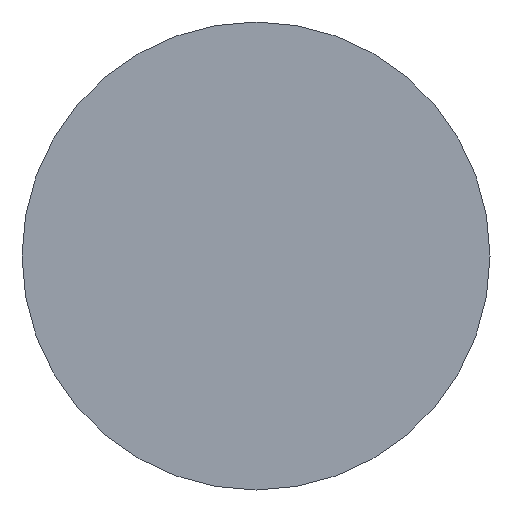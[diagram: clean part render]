
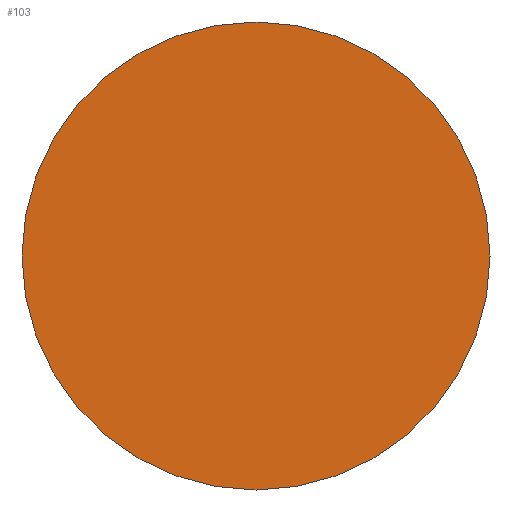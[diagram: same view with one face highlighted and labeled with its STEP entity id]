
A CAD part, front view. The second image highlights one B-rep face of the part: STEP entity #103.
In plain terms, the highlighted planar face has unit normal (0, -1, 0).
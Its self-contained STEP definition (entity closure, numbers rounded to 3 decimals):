
#73 = VERTEX_POINT( '', #172 );
#77 = EDGE_CURVE( '', #79, #73, #176, .T. );
#79 = VERTEX_POINT( '', #178 );
#103 = ADVANCED_FACE( '', ( #207 ), #208, .T. );
#117 = EDGE_CURVE( '', #73, #79, #223, .T. );
#172 = CARTESIAN_POINT( '', ( 0., -23., 12.5 ) );
#176 = CIRCLE( '', #280, 12.5 );
#178 = CARTESIAN_POINT( '', ( 0., -23., -12.5 ) );
#207 = FACE_OUTER_BOUND( '', #313, .T. );
#208 = PLANE( '', #314 );
#223 = CIRCLE( '', #333, 12.5 );
#280 = AXIS2_PLACEMENT_3D( '', #397, #398, #399 );
#313 = EDGE_LOOP( '', ( #437, #438 ) );
#314 = AXIS2_PLACEMENT_3D( '', #439, #440, #441 );
#333 = AXIS2_PLACEMENT_3D( '', #453, #454, #455 );
#397 = CARTESIAN_POINT( '', ( 0., -23., 0. ) );
#398 = DIRECTION( '', ( 0., -1., 0. ) );
#399 = DIRECTION( '', ( 0., 0., 1. ) );
#437 = ORIENTED_EDGE( '', *, *, #117, .T. );
#438 = ORIENTED_EDGE( '', *, *, #77, .T. );
#439 = CARTESIAN_POINT( '', ( 0., -23., 6.25 ) );
#440 = DIRECTION( '', ( 0., -1., 0. ) );
#441 = DIRECTION( '', ( 0., 0., 1. ) );
#453 = CARTESIAN_POINT( '', ( 0., -23., 0. ) );
#454 = DIRECTION( '', ( 0., -1., 0. ) );
#455 = DIRECTION( '', ( 0., 0., 1. ) );
